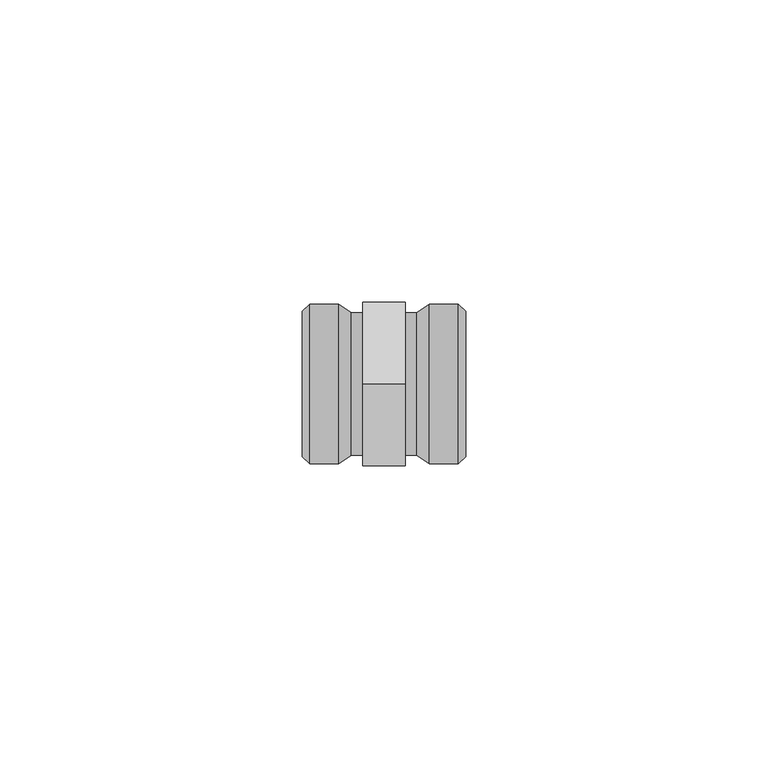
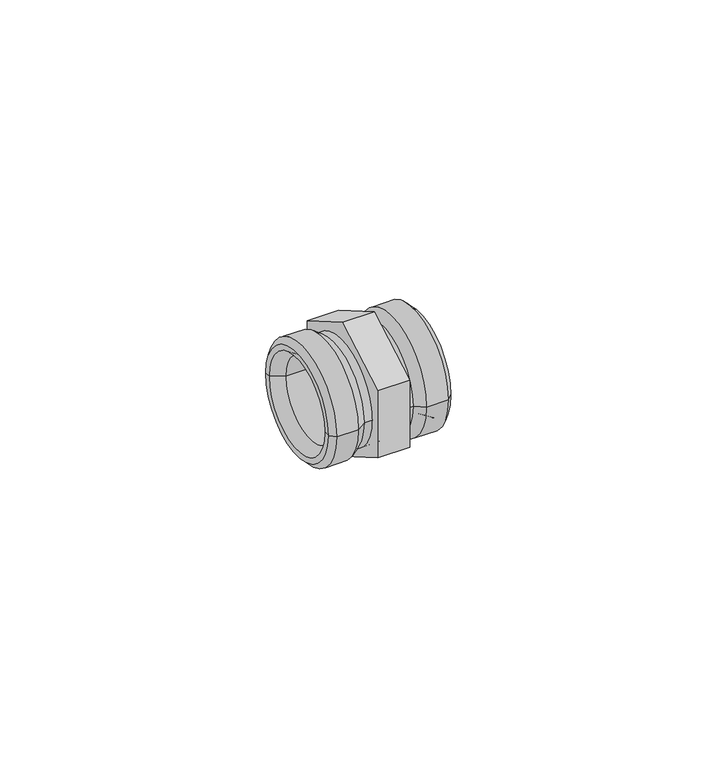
"""IFC4 building model written with IfcOpenShell, lengths in millimetres: pipe fitting geometry."""

from ifc_helpers import new_model, si_unit, frame, origin, place, context, project, spatial, polyline, circle_curve, outline, extrude, source, transform, mapped, element, save
from ifc_brep_helpers import plane_surface, cylinder_surface, revolved_surface, advanced_brep


def pipe_fitting_62024e3c(model_context):
    return source(origin(), model_context, "Body", "SolidModel", [
        extrude(outline(polyline([(-13.5, 7.7942286), (0.0, 15.5884573), (13.5, 7.7942286), (13.5, -7.7942286), (0.0, -15.5884573), (-13.5, -7.7942286), (-13.5, 7.7942286)])), frame((-3.5, 0.0, 0.0), z_axis=(1.0, 0.0, 0.0), x_axis=(0.0, 1.0, 0.0)), (0.0, 0.0, 1.0), 7.0),
        advanced_brep(
        [(12.2999066, -13.2200726, 0.0), (12.2999066, 13.2200726, 0.0), (13.5, 12.0199792, 0.0), (13.5, -12.0199792, 0.0), (7.4957238, -13.2200726, 0.0), (7.4957238, 13.2200726, 0.0), (5.4142829, -11.762632, 0.0), (5.4142829, 11.762632, 0.0), (0.0, -11.762632, 0.0), (0.0, 11.762632, 0.0), (-5.4142829, -11.762632, 0.0), (-5.4142829, 11.762632, 0.0), (-7.4957238, -13.2200726, 0.0), (-7.4957238, 13.2200726, 0.0), (-12.2999066, -13.2200726, 0.0), (-12.2999066, 13.2200726, 0.0), (-13.5, -12.0199792, 0.0), (-13.5, 12.0199792, 0.0), (-13.5, -10.7320216, 0.0), (-13.5, 10.7320216, 0.0), (-10.7252967, -9.1118305, 0.0), (-10.7252967, 9.1118305, 0.0), (10.6937468, -9.1118305, 0.0), (10.6937468, 9.1118305, 0.0), (13.5, -10.7320216, 0.0), (13.5, 10.7320216, 0.0)],
        [
            (0, 1, circle_curve(frame((12.2999066, 0.0, 0.0), z_axis=(1.0, 0.0, 0.0), x_axis=(0.0, 1.0, 0.0)), 13.2200726)),
            (1, 2),
            (2, 3, circle_curve(frame((13.5, 0.0, 0.0), z_axis=(-1.0, 0.0, 0.0), x_axis=(0.0, 1.0, 0.0)), 12.0199792)),
            (3, 0),
            (1, 0, circle_curve(frame((12.2999066, 0.0, 0.0), z_axis=(1.0, 0.0, 0.0), x_axis=(0.0, 1.0, 0.0)), 13.2200726)),
            (3, 2, circle_curve(frame((13.5, 0.0, 0.0), z_axis=(-1.0, 0.0, 0.0), x_axis=(0.0, 1.0, 0.0)), 12.0199792)),
            (4, 5, circle_curve(frame((7.4957238, 0.0, 0.0), z_axis=(1.0, 0.0, 0.0), x_axis=(0.0, 1.0, 0.0)), 13.2200726)),
            (5, 1),
            (0, 4),
            (5, 4, circle_curve(frame((7.4957238, 0.0, 0.0), z_axis=(1.0, 0.0, 0.0), x_axis=(0.0, 1.0, 0.0)), 13.2200726)),
            (6, 7, circle_curve(frame((5.4142829, 0.0, 0.0), z_axis=(1.0, 0.0, 0.0), x_axis=(0.0, 1.0, 0.0)), 11.762632)),
            (7, 5),
            (4, 6),
            (7, 6, circle_curve(frame((5.4142829, 0.0, 0.0), z_axis=(1.0, 0.0, 0.0), x_axis=(0.0, 1.0, 0.0)), 11.762632)),
            (8, 9, circle_curve(frame((0.0, 0.0, 0.0), z_axis=(1.0, 0.0, 0.0), x_axis=(0.0, 1.0, 0.0)), 11.762632)),
            (9, 7),
            (6, 8),
            (9, 8, circle_curve(frame((0.0, 0.0, 0.0), z_axis=(1.0, 0.0, 0.0), x_axis=(0.0, 1.0, 0.0)), 11.762632)),
            (10, 11, circle_curve(frame((-5.4142829, 0.0, 0.0), z_axis=(1.0, 0.0, 0.0), x_axis=(0.0, 1.0, 0.0)), 11.762632)),
            (11, 9),
            (8, 10),
            (11, 10, circle_curve(frame((-5.4142829, 0.0, 0.0), z_axis=(1.0, 0.0, 0.0), x_axis=(0.0, 1.0, 0.0)), 11.762632)),
            (12, 13, circle_curve(frame((-7.4957238, 0.0, 0.0), z_axis=(1.0, 0.0, 0.0), x_axis=(0.0, 1.0, 0.0)), 13.2200726)),
            (13, 11),
            (10, 12),
            (13, 12, circle_curve(frame((-7.4957238, 0.0, 0.0), z_axis=(1.0, 0.0, 0.0), x_axis=(0.0, 1.0, 0.0)), 13.2200726)),
            (14, 15, circle_curve(frame((-12.2999066, 0.0, 0.0), z_axis=(1.0, 0.0, 0.0), x_axis=(0.0, 1.0, 0.0)), 13.2200726)),
            (15, 13),
            (12, 14),
            (15, 14, circle_curve(frame((-12.2999066, 0.0, 0.0), z_axis=(1.0, 0.0, 0.0), x_axis=(0.0, 1.0, 0.0)), 13.2200726)),
            (16, 17, circle_curve(frame((-13.5, 0.0, 0.0), z_axis=(1.0, 0.0, 0.0), x_axis=(0.0, 1.0, 0.0)), 12.0199792)),
            (17, 15),
            (14, 16),
            (17, 16, circle_curve(frame((-13.5, 0.0, 0.0), z_axis=(1.0, 0.0, 0.0), x_axis=(0.0, 1.0, 0.0)), 12.0199792)),
            (18, 19, circle_curve(frame((-13.5, 0.0, 0.0), z_axis=(1.0, 0.0, 0.0), x_axis=(0.0, 1.0, 0.0)), 10.7320216)),
            (19, 17),
            (16, 18),
            (19, 18, circle_curve(frame((-13.5, 0.0, 0.0), z_axis=(1.0, 0.0, 0.0), x_axis=(0.0, 1.0, 0.0)), 10.7320216)),
            (20, 21, circle_curve(frame((-10.7252967, 0.0, 0.0), z_axis=(1.0, 0.0, 0.0), x_axis=(0.0, 1.0, 0.0)), 9.1118305)),
            (21, 19),
            (18, 20),
            (21, 20, circle_curve(frame((-10.7252967, 0.0, 0.0), z_axis=(1.0, 0.0, 0.0), x_axis=(0.0, 1.0, 0.0)), 9.1118305)),
            (22, 23, circle_curve(frame((10.6937468, 0.0, 0.0), z_axis=(1.0, 0.0, 0.0), x_axis=(0.0, 1.0, 0.0)), 9.1118305)),
            (23, 21),
            (20, 22),
            (23, 22, circle_curve(frame((10.6937468, 0.0, 0.0), z_axis=(1.0, 0.0, 0.0), x_axis=(0.0, 1.0, 0.0)), 9.1118305)),
            (24, 25, circle_curve(frame((13.5, 0.0, 0.0), z_axis=(1.0, 0.0, 0.0), x_axis=(0.0, 1.0, 0.0)), 10.7320216)),
            (25, 23),
            (22, 24),
            (25, 24, circle_curve(frame((13.5, 0.0, 0.0), z_axis=(1.0, 0.0, 0.0), x_axis=(0.0, 1.0, 0.0)), 10.7320216)),
            (2, 25),
            (24, 3),
        ],
        [
            revolved_surface(polyline([(13.5, 12.0199792, 0.0), (12.2999066, 13.2200726, 0.0)]), (-22.3394292, 0.0, 0.0), (-1.0, 0.0, 0.0)),
            cylinder_surface(frame((-22.3394292, 0.0, 0.0), z_axis=(-1.0, 0.0, 0.0), x_axis=(0.0, 1.0, 0.0)), 13.2200726),
            revolved_surface(polyline([(7.4957238, 13.2200726, 0.0), (5.4142829, 11.762632, 0.0)]), (-22.3394292, 0.0, 0.0), (-1.0, 0.0, 0.0)),
            cylinder_surface(frame((-22.3394292, 0.0, 0.0), z_axis=(-1.0, 0.0, 0.0), x_axis=(0.0, 1.0, 0.0)), 11.762632),
            revolved_surface(polyline([(-5.4142829, 11.762632, 0.0), (-7.4957238, 13.2200726, 0.0)]), (-22.3394292, 0.0, 0.0), (-1.0, 0.0, 0.0)),
            revolved_surface(polyline([(-12.2999066, 13.2200726, 0.0), (-13.5, 12.0199792, 0.0)]), (-22.3394292, 0.0, 0.0), (-1.0, 0.0, 0.0)),
            plane_surface(frame((-13.5, 0.0, 0.0), z_axis=(-1.0, 0.0, 0.0), x_axis=(0.0, 1.0, 0.0))),
            revolved_surface(polyline([(-13.5, 10.7320216, 0.0), (-10.7252967, 9.1118305, 0.0)]), (-22.3394292, 0.0, 0.0), (-1.0, 0.0, 0.0)),
            revolved_surface(polyline([(-10.7252967, 9.1118305, 0.0), (10.693746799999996, 9.1118305, 0.0)]), (-22.3394292, 0.0, 0.0), (-1.0, 0.0, 0.0)),
            revolved_surface(polyline([(10.6937468, 9.1118305, 0.0), (13.5, 10.7320216, 0.0)]), (-22.3394292, 0.0, 0.0), (-1.0, 0.0, 0.0)),
            plane_surface(frame((13.5, 0.0, 0.0), z_axis=(1.0, 0.0, 0.0), x_axis=(0.0, 1.0, 0.0))),
        ],
        [
            (0, [[1, 2, 3, 4]]),
            (0, [[5, -4, 6, -2]]),
            (1, [[7, 8, -1, 9]]),
            (1, [[10, -9, -5, -8]]),
            (2, [[11, 12, -7, 13]]),
            (2, [[14, -13, -10, -12]]),
            (3, [[15, 16, -11, 17]]),
            (3, [[18, -17, -14, -16]]),
            (3, [[19, 20, -15, 21]]),
            (3, [[22, -21, -18, -20]]),
            (4, [[23, 24, -19, 25]]),
            (4, [[26, -25, -22, -24]]),
            (1, [[27, 28, -23, 29]]),
            (1, [[30, -29, -26, -28]]),
            (5, [[31, 32, -27, 33]]),
            (5, [[34, -33, -30, -32]]),
            (6, [[35, 36, -31, 37]]),
            (6, [[38, -37, -34, -36]]),
            (7, [[39, 40, -35, 41]]),
            (7, [[42, -41, -38, -40]]),
            (8, [[43, 44, -39, 45]]),
            (8, [[46, -45, -42, -44]]),
            (9, [[47, 48, -43, 49]]),
            (9, [[50, -49, -46, -48]]),
            (10, [[-3, 51, -47, 52]]),
            (10, [[-6, -52, -50, -51]]),
        ],
    ),
    ])


if __name__ == "__main__":
    model = new_model("IFC4")
    model_context = context("Model", 3, world=origin())
    ifc_project = project(units=[si_unit("LENGTHUNIT", "METRE", prefix="MILLI")], contexts=[model_context])
    site = spatial("IfcSite", under=ifc_project)
    building = spatial("IfcBuilding", under=site)
    placement = place(None, origin())
    pipe_fitting_shape = pipe_fitting_62024e3c(model_context)
    element("IfcPipeFitting", 1, at=placement, inside=building, context=model_context, shape_type="MappedRepresentation", body=[
        mapped(pipe_fitting_shape, transform((0.0, 0.0, 0.0), x_axis=(1.0, 0.0, 0.0), y_axis=(0.0, 1.0, 0.0), z_axis=(0.0, 0.0, 1.0))),
    ])
    save(model, "model.ifc")
